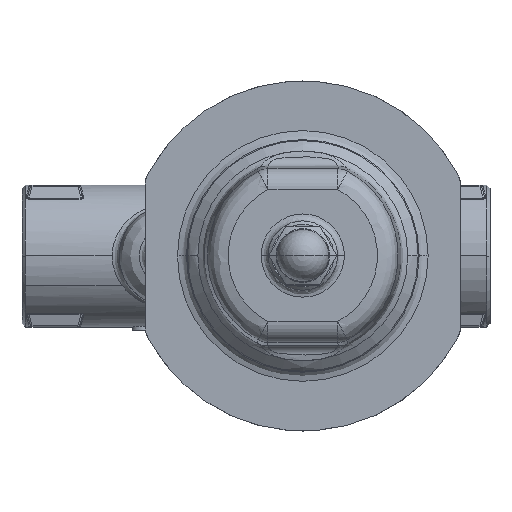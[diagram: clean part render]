
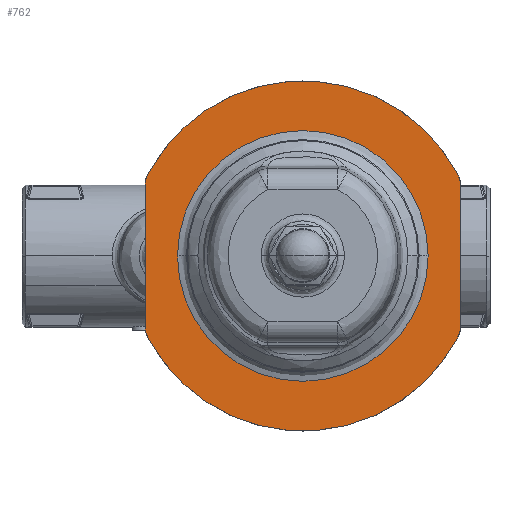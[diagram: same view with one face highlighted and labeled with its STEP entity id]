
A CAD part, top view. The second image highlights one B-rep face of the part: STEP entity #762.
In plain terms, the highlighted planar face has unit normal (0, 0, 1).
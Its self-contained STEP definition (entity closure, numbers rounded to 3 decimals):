
#762=ADVANCED_FACE('',(#6224,#6225),#6223,.F.);
#6223=PLANE('',#17775);
#6224=FACE_OUTER_BOUND('',#17776,.T.);
#6225=FACE_BOUND('',#17777,.T.);
#17772=CARTESIAN_POINT('',(54.6,-60.5,7.));
#17773=DIRECTION('',(0.,0.,-1.));
#17774=DIRECTION('',(-1.,0.,0.));
#17775=AXIS2_PLACEMENT_3D('',#17772,#17773,#17774);
#17776=EDGE_LOOP('',(#20888,#20889,#20890,#20891,#20892,#20893,#20894,#20895));
#17777=EDGE_LOOP('',(#20896,#20897));
#20888=ORIENTED_EDGE('',*,*,#22426,.F.);
#20889=ORIENTED_EDGE('',*,*,#22373,.T.);
#20890=ORIENTED_EDGE('',*,*,#22418,.F.);
#20891=ORIENTED_EDGE('',*,*,#22361,.T.);
#20892=ORIENTED_EDGE('',*,*,#22425,.F.);
#20893=ORIENTED_EDGE('',*,*,#22365,.T.);
#20894=ORIENTED_EDGE('',*,*,#22427,.F.);
#20895=ORIENTED_EDGE('',*,*,#22369,.T.);
#20896=ORIENTED_EDGE('',*,*,#22429,.T.);
#20897=ORIENTED_EDGE('',*,*,#22430,.T.);
#22361=EDGE_CURVE('',#30553,#30546,#30554,.T.);
#22365=EDGE_CURVE('',#30581,#30574,#30582,.T.);
#22369=EDGE_CURVE('',#30609,#30602,#30610,.T.);
#22373=EDGE_CURVE('',#30637,#30630,#30638,.T.);
#22418=EDGE_CURVE('',#30553,#30630,#30932,.T.);
#22425=EDGE_CURVE('',#30581,#30546,#30976,.T.);
#22426=EDGE_CURVE('',#30637,#30602,#30982,.T.);
#22427=EDGE_CURVE('',#30609,#30574,#30988,.T.);
#22429=EDGE_CURVE('',#31000,#31001,#31002,.T.);
#22430=EDGE_CURVE('',#31001,#31000,#31008,.T.);
#30546=VERTEX_POINT('',#39988);
#30553=VERTEX_POINT('',#39992);
#30554=CIRCLE('',#39996,6.5);
#30574=VERTEX_POINT('',#40006);
#30581=VERTEX_POINT('',#40010);
#30582=CIRCLE('',#40014,6.5);
#30602=VERTEX_POINT('',#40024);
#30609=VERTEX_POINT('',#40028);
#30610=CIRCLE('',#40032,6.5);
#30630=VERTEX_POINT('',#40042);
#30637=VERTEX_POINT('',#40046);
#30638=CIRCLE('',#40050,6.5);
#30932=CIRCLE('',#40336,50.5);
#30976=LINE('',#40361,#40362);
#30982=LINE('',#40364,#40365);
#30988=CIRCLE('',#40370,50.5);
#31000=VERTEX_POINT('',#40374);
#31001=VERTEX_POINT('',#40375);
#31002=CIRCLE('',#40379,36.155);
#31008=CIRCLE('',#40383,36.155);
#39988=CARTESIAN_POINT('',(-45.5,20.372,7.));
#39992=CARTESIAN_POINT('',(-44.761,23.381,7.));
#39993=CARTESIAN_POINT('',(-39.,20.372,7.));
#39994=DIRECTION('',(0.,0.,1.));
#39995=DIRECTION('',(1.,0.,0.));
#39996=AXIS2_PLACEMENT_3D('',#39993,#39994,#39995);
#40006=CARTESIAN_POINT('',(-44.761,-23.381,7.));
#40010=CARTESIAN_POINT('',(-45.5,-20.372,7.));
#40011=CARTESIAN_POINT('',(-39.,-20.372,7.));
#40012=DIRECTION('',(0.,0.,1.));
#40013=DIRECTION('',(1.,0.,0.));
#40014=AXIS2_PLACEMENT_3D('',#40011,#40012,#40013);
#40024=CARTESIAN_POINT('',(45.5,-20.372,7.));
#40028=CARTESIAN_POINT('',(44.761,-23.381,7.));
#40029=CARTESIAN_POINT('',(39.,-20.372,7.));
#40030=DIRECTION('',(0.,0.,1.));
#40031=DIRECTION('',(1.,0.,0.));
#40032=AXIS2_PLACEMENT_3D('',#40029,#40030,#40031);
#40042=CARTESIAN_POINT('',(44.761,23.381,7.));
#40046=CARTESIAN_POINT('',(45.5,20.372,7.));
#40047=CARTESIAN_POINT('',(39.,20.372,7.));
#40048=DIRECTION('',(0.,0.,1.));
#40049=DIRECTION('',(1.,0.,0.));
#40050=AXIS2_PLACEMENT_3D('',#40047,#40048,#40049);
#40333=CARTESIAN_POINT('',(0.,0.,7.));
#40334=DIRECTION('',(0.,0.,-1.));
#40335=DIRECTION('',(1.,0.,0.));
#40336=AXIS2_PLACEMENT_3D('',#40333,#40334,#40335);
#40361=CARTESIAN_POINT('',(-45.5,-20.372,7.));
#40362=VECTOR('',#40363,40.743);
#40363=DIRECTION('',(0.,1.,0.));
#40364=CARTESIAN_POINT('',(45.5,20.372,7.));
#40365=VECTOR('',#40366,40.743);
#40366=DIRECTION('',(0.,-1.,0.));
#40367=CARTESIAN_POINT('',(0.,0.,7.));
#40368=DIRECTION('',(0.,0.,-1.));
#40369=DIRECTION('',(1.,0.,0.));
#40370=AXIS2_PLACEMENT_3D('',#40367,#40368,#40369);
#40374=CARTESIAN_POINT('',(-36.155,0.,7.));
#40375=CARTESIAN_POINT('',(36.155,0.,7.));
#40376=CARTESIAN_POINT('',(0.,0.,7.));
#40377=DIRECTION('',(0.,0.,-1.));
#40378=DIRECTION('',(-1.,0.,0.));
#40379=AXIS2_PLACEMENT_3D('',#40376,#40377,#40378);
#40380=CARTESIAN_POINT('',(0.,0.,7.));
#40381=DIRECTION('',(0.,0.,-1.));
#40382=DIRECTION('',(-1.,0.,0.));
#40383=AXIS2_PLACEMENT_3D('',#40380,#40381,#40382);
